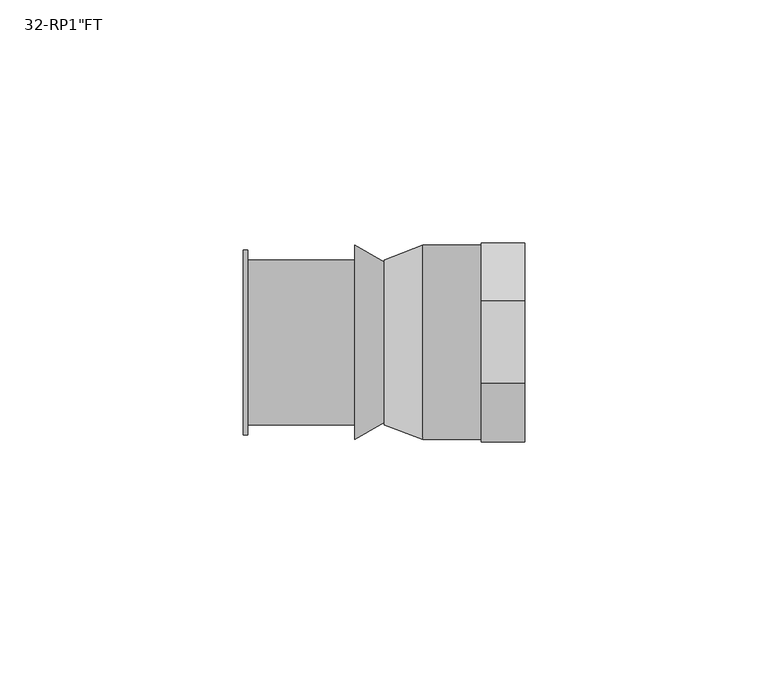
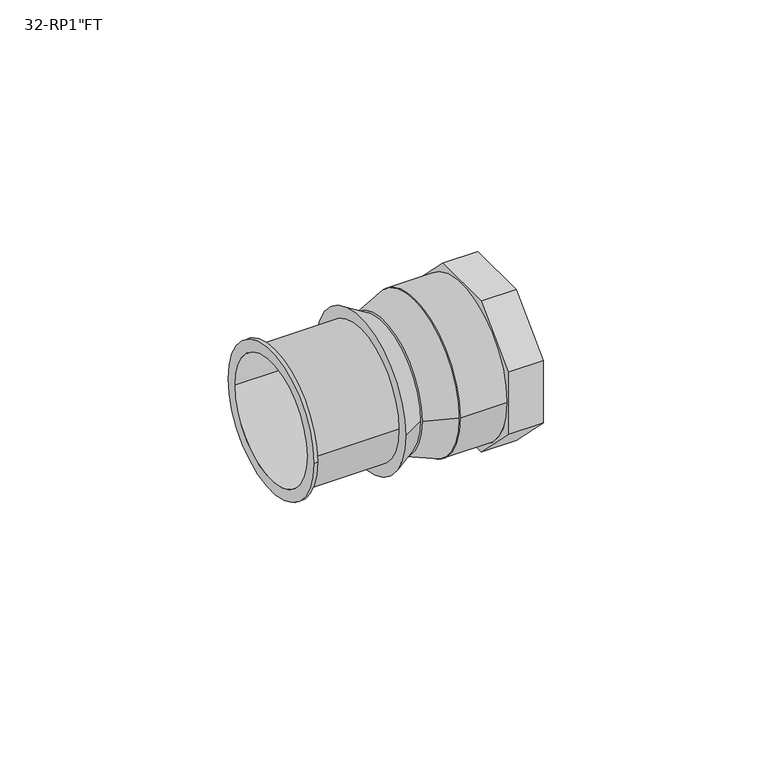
"""IFC4 building model written with IfcOpenShell, lengths in millimetres: pipe fitting geometry."""

from ifc_helpers import new_model, si_unit, frame, origin, place, context, project, spatial, polyline, circle_curve, source, transform, mapped, element, save
from ifc_brep_helpers import plane_surface, cylinder_surface, revolved_surface, advanced_brep


def pipe_fitting_e70ef469(model_context):
    return source(origin(), model_context, "Body", "AdvancedBrep", [
        advanced_brep(
        [(14.0, -20.5, 8.491378), (14.0, -8.491378, 20.5), (14.0, 8.491378, 20.5), (14.0, 20.5, 8.491378), (14.0, 20.5, -8.491378), (14.0, 8.491378, -20.5), (14.0, -8.491378, -20.5), (14.0, -20.5, -8.491378), (14.0, 20.0, 0.0), (14.0, -20.0, 0.0), (23.0, -20.5, 8.491378), (23.0, -20.5, -8.491378), (23.0, -8.491378, -20.5), (23.0, 8.491378, -20.5), (23.0, 20.5, -8.491378), (23.0, 20.5, 8.491378), (23.0, 8.491378, 20.5), (23.0, -8.491378, 20.5), (23.0, -15.0, 0.0), (23.0, 15.0, 0.0), (14.0, 15.0, 0.0), (14.0, -15.0, 0.0), (2.0, -20.0, 0.0), (2.0, 20.0, 0.0), (2.0, -15.0, 0.0), (2.0, 15.0, 0.0)],
        [
            (0, 1),
            (1, 2),
            (2, 3),
            (3, 4),
            (4, 5),
            (5, 6),
            (6, 7),
            (7, 0),
            (8, 9, circle_curve(frame((14.0, 0.0, 0.0), z_axis=(1.0, 0.0, 0.0), x_axis=(0.0, 1.0, 0.0)), 20.0)),
            (9, 8, circle_curve(frame((14.0, 0.0, 0.0), z_axis=(1.0, 0.0, 0.0), x_axis=(0.0, 1.0, 0.0)), 20.0)),
            (10, 11),
            (11, 12),
            (12, 13),
            (13, 14),
            (14, 15),
            (15, 16),
            (16, 17),
            (17, 10),
            (18, 19, circle_curve(frame((23.0, 0.0, 0.0), z_axis=(-1.0, 0.0, 0.0), x_axis=(0.0, 1.0, 0.0)), 15.0)),
            (19, 18, circle_curve(frame((23.0, 0.0, 0.0), z_axis=(-1.0, 0.0, 0.0), x_axis=(0.0, 1.0, 0.0)), 15.0)),
            (0, 10),
            (17, 1),
            (16, 2),
            (15, 3),
            (14, 4),
            (13, 5),
            (12, 6),
            (11, 7),
            (19, 20),
            (20, 21, circle_curve(frame((14.0, 0.0, 0.0), z_axis=(-1.0, 0.0, 0.0), x_axis=(0.0, 1.0, 0.0)), 15.0)),
            (21, 18),
            (21, 20, circle_curve(frame((14.0, 0.0, 0.0), z_axis=(-1.0, 0.0, 0.0), x_axis=(0.0, 1.0, 0.0)), 15.0)),
            (22, 23, circle_curve(frame((2.0, 0.0, 0.0), z_axis=(-1.0, 0.0, 0.0), x_axis=(0.0, 1.0, 0.0)), 20.0)),
            (23, 22, circle_curve(frame((2.0, 0.0, 0.0), z_axis=(-1.0, 0.0, 0.0), x_axis=(0.0, 1.0, 0.0)), 20.0)),
            (24, 25, circle_curve(frame((2.0, 0.0, 0.0), z_axis=(1.0, 0.0, 0.0), x_axis=(0.0, 1.0, 0.0)), 15.0)),
            (25, 24, circle_curve(frame((2.0, 0.0, 0.0), z_axis=(1.0, 0.0, 0.0), x_axis=(0.0, 1.0, 0.0)), 15.0)),
            (24, 21),
            (20, 25),
            (22, 9),
            (8, 23),
        ],
        [
            plane_surface(frame((14.0, 0.0, 0.0), z_axis=(-1.0, 0.0, 0.0), x_axis=(0.0, 0.0, 1.0))),
            plane_surface(frame((23.0, 0.0, 0.0), z_axis=(1.0, 0.0, 0.0), x_axis=(0.0, 0.0, 1.0))),
            plane_surface(frame((14.0, -20.5, 8.491378), z_axis=(0.0, -0.7071067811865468, 0.7071067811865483), x_axis=(1.0, 0.0, 0.0))),
            plane_surface(frame((14.0, -8.491378, 20.5), z_axis=(0.0, 0.0, 1.0), x_axis=(1.0, 0.0, 0.0))),
            plane_surface(frame((14.0, 8.491378, 20.5), z_axis=(0.0, 0.7071067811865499, 0.7071067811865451), x_axis=(1.0, 0.0, 0.0))),
            plane_surface(frame((14.0, 20.5, 8.491378), z_axis=(0.0, 1.0, 0.0), x_axis=(1.0, 0.0, 0.0))),
            plane_surface(frame((14.0, 20.5, -8.491378), z_axis=(0.0, 0.7071067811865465, -0.7071067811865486), x_axis=(1.0, 0.0, 0.0))),
            plane_surface(frame((14.0, 8.491378, -20.5), z_axis=(0.0, 0.0, -1.0), x_axis=(1.0, 0.0, 0.0))),
            plane_surface(frame((14.0, -8.491378, -20.5), z_axis=(0.0, -0.7071067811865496, -0.7071067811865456), x_axis=(1.0, 0.0, 0.0))),
            plane_surface(frame((14.0, -20.5, -8.491378), z_axis=(0.0, -1.0, 0.0), x_axis=(1.0, 0.0, 0.0))),
            revolved_surface(polyline([(23.0, 15.0, 0.0), (14.0, 15.0, 0.0)]), (14.0, 0.0, 0.0), (1.0, 0.0, 0.0)),
            plane_surface(frame((2.0, 0.0, 0.0), z_axis=(-1.0, 0.0, 0.0), x_axis=(0.0, 0.0, 1.0))),
            revolved_surface(polyline([(14.0, 15.0, 0.0), (2.0, 15.0, 0.0)]), (2.0, 0.0, 0.0), (1.0, 0.0, 0.0)),
            cylinder_surface(frame((2.0, 0.0, 0.0), z_axis=(-1.0, 0.0, 0.0), x_axis=(0.0, 1.0, 0.0)), 20.0),
        ],
        [
            (0, [[1, 2, 3, 4, 5, 6, 7, 8], [9, 10]]),
            (1, [[11, 12, 13, 14, 15, 16, 17, 18], [19, 20]]),
            (2, [[-1, 21, -18, 22]]),
            (3, [[-2, -22, -17, 23]]),
            (4, [[-3, -23, -16, 24]]),
            (5, [[-4, -24, -15, 25]]),
            (6, [[-5, -25, -14, 26]]),
            (7, [[-6, -26, -13, 27]]),
            (8, [[-7, -27, -12, 28]]),
            (9, [[-8, -28, -11, -21]]),
            (10, [[-20, 29, 30, 31]]),
            (10, [[-19, -31, 32, -29]]),
            (11, [[33, 34], [35, 36]]),
            (12, [[-35, 37, -30, 38]]),
            (12, [[-36, -38, -32, -37]]),
            (13, [[-33, 39, -9, 40]]),
            (13, [[-34, -40, -10, -39]]),
        ],
    ),
        advanced_brep(
        [(2.0, -20.0, 0.0), (2.0, 20.0, 0.0), (-6.0, -17.0, 0.0), (-6.0, 17.0, 0.0)],
        [
            (0, 1, circle_curve(frame((2.0, 0.0, 0.0), z_axis=(1.0, 0.0, 0.0), x_axis=(0.0, -1.0, 0.0)), 20.0)),
            (1, 0, circle_curve(frame((2.0, 0.0, 0.0), z_axis=(1.0, 0.0, 0.0), x_axis=(0.0, 1.0, 0.0)), 20.0)),
            (2, 3, circle_curve(frame((-6.0, 0.0, 0.0), z_axis=(-1.0, 0.0, 0.0), x_axis=(0.0, 1.0, 0.0)), 17.0)),
            (3, 2, circle_curve(frame((-6.0, 0.0, 0.0), z_axis=(-1.0, 0.0, 0.0), x_axis=(0.0, -1.0, 0.0)), 17.0)),
            (3, 1),
            (0, 2),
        ],
        [
            plane_surface(frame((2.0, 0.0, 0.0), z_axis=(1.0, 0.0, 0.0), x_axis=(0.0, 0.0, -1.0))),
            plane_surface(frame((-6.0, 0.0, 0.0), z_axis=(-1.0, 0.0, 0.0), x_axis=(0.0, 0.0, -1.0))),
            revolved_surface(polyline([(-6.0, 16.999999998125, 0.0), (2.0, 20.0, 0.0)]), (-51.3333333, 0.0, 0.0), (1.0, 0.0, 0.0)),
            revolved_surface(polyline([(-6.0, -16.999999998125, 0.0), (2.0, -20.0, 0.0)]), (-51.3333333, 0.0, 0.0), (1.0, 0.0, 0.0)),
        ],
        [
            (0, [[1, 2]]),
            (1, [[3, 4]]),
            (2, [[-4, 5, -1, 6]]),
            (3, [[-3, -6, -2, -5]]),
        ],
    ),
        advanced_brep(
        [(-35.0, -19.0, 0.0), (-35.0, 19.0, 0.0), (-35.0, -16.0, 0.0), (-35.0, 16.0, 0.0), (-12.0, -17.0, 0.0), (-12.0, 17.0, 0.0), (-12.0, -16.0, 0.0), (-12.0, 16.0, 0.0), (-34.0, 17.0, 0.0), (-34.0, -17.0, 0.0), (-34.0, -19.0, 0.0), (-34.0, 19.0, 0.0)],
        [
            (0, 1, circle_curve(frame((-35.0, 0.0, 0.0), z_axis=(-1.0, 0.0, 0.0), x_axis=(0.0, 1.0, 0.0)), 19.0)),
            (1, 0, circle_curve(frame((-35.0, 0.0, 0.0), z_axis=(-1.0, 0.0, 0.0), x_axis=(0.0, 1.0, 0.0)), 19.0)),
            (2, 3, circle_curve(frame((-35.0, 0.0, 0.0), z_axis=(1.0, 0.0, 0.0), x_axis=(0.0, 1.0, 0.0)), 16.0)),
            (3, 2, circle_curve(frame((-35.0, 0.0, 0.0), z_axis=(1.0, 0.0, 0.0), x_axis=(0.0, 1.0, 0.0)), 16.0)),
            (4, 5, circle_curve(frame((-12.0, 0.0, 0.0), z_axis=(1.0, 0.0, 0.0), x_axis=(0.0, 1.0, 0.0)), 17.0)),
            (5, 4, circle_curve(frame((-12.0, 0.0, 0.0), z_axis=(1.0, 0.0, 0.0), x_axis=(0.0, 1.0, 0.0)), 17.0)),
            (6, 7, circle_curve(frame((-12.0, 0.0, 0.0), z_axis=(-1.0, 0.0, 0.0), x_axis=(0.0, 1.0, 0.0)), 16.0)),
            (7, 6, circle_curve(frame((-12.0, 0.0, 0.0), z_axis=(-1.0, 0.0, 0.0), x_axis=(0.0, 1.0, 0.0)), 16.0)),
            (2, 6),
            (7, 3),
            (5, 8),
            (8, 9, circle_curve(frame((-34.0, 0.0, 0.0), z_axis=(1.0, 0.0, 0.0), x_axis=(0.0, 1.0, 0.0)), 17.0)),
            (9, 4),
            (9, 8, circle_curve(frame((-34.0, 0.0, 0.0), z_axis=(1.0, 0.0, 0.0), x_axis=(0.0, 1.0, 0.0)), 17.0)),
            (10, 11, circle_curve(frame((-34.0, 0.0, 0.0), z_axis=(1.0, 0.0, 0.0), x_axis=(0.0, 1.0, 0.0)), 19.0)),
            (11, 10, circle_curve(frame((-34.0, 0.0, 0.0), z_axis=(1.0, 0.0, 0.0), x_axis=(0.0, 1.0, 0.0)), 19.0)),
            (0, 10),
            (11, 1),
        ],
        [
            plane_surface(frame((-35.0, 0.0, 0.0), z_axis=(-1.0, 0.0, 0.0), x_axis=(0.0, 0.0, 1.0))),
            plane_surface(frame((-12.0, 0.0, 0.0), z_axis=(1.0, 0.0, 0.0), x_axis=(0.0, 0.0, 1.0))),
            revolved_surface(polyline([(-12.0, 16.0, 0.0), (-35.0, 16.0, 0.0)]), (-35.0, 0.0, 0.0), (1.0, 0.0, 0.0)),
            cylinder_surface(frame((-35.0, 0.0, 0.0), z_axis=(-1.0, 0.0, 0.0), x_axis=(0.0, 1.0, 0.0)), 17.0),
            plane_surface(frame((-34.0, 0.0, 0.0), z_axis=(1.0, 0.0, 0.0), x_axis=(0.0, 0.0, 1.0))),
            cylinder_surface(frame((-35.0, 0.0, 0.0), z_axis=(-1.0, 0.0, 0.0), x_axis=(0.0, 1.0, 0.0)), 19.0),
        ],
        [
            (0, [[1, 2], [3, 4]]),
            (1, [[5, 6], [7, 8]]),
            (2, [[-3, 9, -8, 10]]),
            (2, [[-4, -10, -7, -9]]),
            (3, [[-6, 11, 12, 13]]),
            (3, [[-5, -13, 14, -11]]),
            (4, [[15, 16], [-12, -14]]),
            (5, [[-1, 17, -16, 18]]),
            (5, [[-2, -18, -15, -17]]),
        ],
    ),
        advanced_brep(
        [(-6.0, -16.5, 0.0), (-6.0, 16.5, 0.0), (-6.0, 16.0, 0.0), (-6.0, -16.0, 0.0), (-12.0, -20.0, 0.0), (-12.0, 20.0, 0.0), (-12.0, -16.0, 0.0), (-12.0, 16.0, 0.0)],
        [
            (0, 1, circle_curve(frame((-6.0, 0.0, 0.0), z_axis=(1.0, 0.0, 0.0), x_axis=(0.0, -1.0, 0.0)), 16.5)),
            (1, 0, circle_curve(frame((-6.0, 0.0, 0.0), z_axis=(1.0, 0.0, 0.0), x_axis=(0.0, 1.0, 0.0)), 16.5)),
            (2, 3, circle_curve(frame((-6.0, 0.0, 0.0), z_axis=(-1.0, 0.0, 0.0), x_axis=(0.0, 1.0, 0.0)), 16.0)),
            (3, 2, circle_curve(frame((-6.0, 0.0, 0.0), z_axis=(-1.0, 0.0, 0.0), x_axis=(0.0, 1.0, 0.0)), 16.0)),
            (4, 5, circle_curve(frame((-12.0, 0.0, 0.0), z_axis=(-1.0, 0.0, 0.0), x_axis=(0.0, 1.0, 0.0)), 20.0)),
            (5, 4, circle_curve(frame((-12.0, 0.0, 0.0), z_axis=(-1.0, 0.0, 0.0), x_axis=(0.0, -1.0, 0.0)), 20.0)),
            (6, 7, circle_curve(frame((-12.0, 0.0, 0.0), z_axis=(1.0, 0.0, 0.0), x_axis=(0.0, 1.0, 0.0)), 16.0)),
            (7, 6, circle_curve(frame((-12.0, 0.0, 0.0), z_axis=(1.0, 0.0, 0.0), x_axis=(0.0, 1.0, 0.0)), 16.0)),
            (0, 4),
            (5, 1),
            (2, 7),
            (6, 3),
        ],
        [
            plane_surface(frame((-6.0, 0.0, 0.0), z_axis=(1.0, 0.0, 0.0), x_axis=(0.0, 0.0, -1.0))),
            plane_surface(frame((-12.0, 0.0, 0.0), z_axis=(-1.0, 0.0, 0.0), x_axis=(0.0, 0.0, -1.0))),
            revolved_surface(polyline([(-6.0, -16.500000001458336, 0.0), (-11.999999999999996, -20.0, 0.0)]), (22.2857143, 0.0, 0.0), (-1.0, 0.0, 0.0)),
            revolved_surface(polyline([(-6.0, 16.500000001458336, 0.0), (-11.999999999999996, 20.0, 0.0)]), (22.2857143, 0.0, 0.0), (-1.0, 0.0, 0.0)),
            revolved_surface(polyline([(-6.0, 16.0, 0.0), (-12.0, 16.0, 0.0)]), (-12.0, 0.0, 0.0), (1.0, 0.0, 0.0)),
        ],
        [
            (0, [[1, 2], [3, 4]]),
            (1, [[5, 6], [7, 8]]),
            (2, [[-1, 9, -6, 10]]),
            (3, [[-2, -10, -5, -9]]),
            (4, [[11, -7, 12, -3]]),
            (4, [[-11, -4, -12, -8]]),
        ],
    ),
    ])


if __name__ == "__main__":
    model = new_model("IFC4")
    model_context = context("Model", 3, world=origin())
    ifc_project = project(units=[si_unit("LENGTHUNIT", "METRE", prefix="MILLI")], contexts=[model_context])
    site = spatial("IfcSite", under=ifc_project)
    building = spatial("IfcBuilding", under=site)
    placement = place(None, origin())
    pipe_fitting_shape = pipe_fitting_e70ef469(model_context)
    element("IfcPipeFitting", 1, ObjectType="SuperPipe_AdapterFT_MAX_RP : 32-RP1\"FT", at=placement, inside=building, context=model_context, shape_type="MappedRepresentation", body=[
        mapped(pipe_fitting_shape, transform((0.0, 0.0, 0.0), x_axis=(1.0, 0.0, 0.0), y_axis=(0.0, 1.0, 0.0), z_axis=(0.0, 0.0, 1.0))),
    ])
    save(model, "model.ifc")
